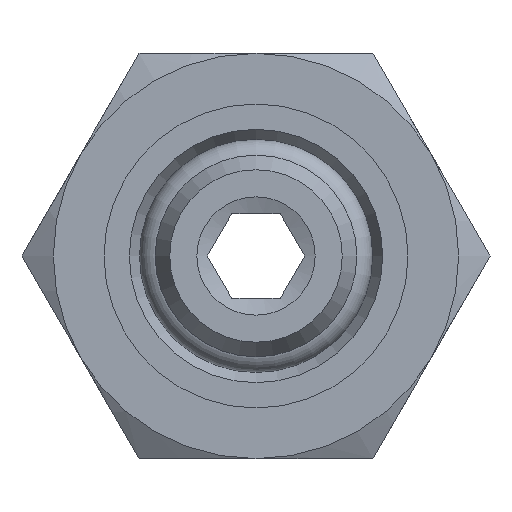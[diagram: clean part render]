
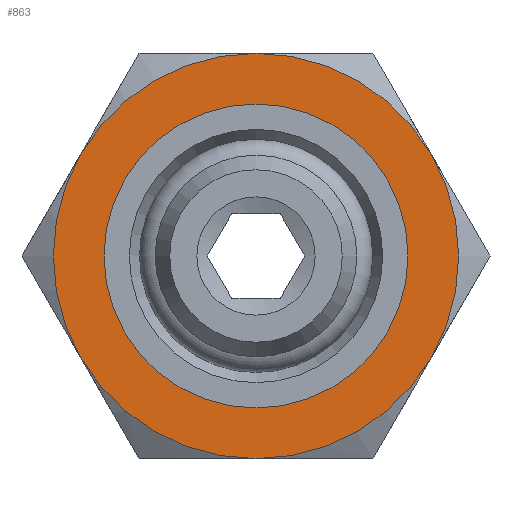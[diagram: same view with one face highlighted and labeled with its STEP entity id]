
A CAD part, front view. The second image highlights one B-rep face of the part: STEP entity #863.
In plain terms, the highlighted planar face has unit normal (0, -1, 0).
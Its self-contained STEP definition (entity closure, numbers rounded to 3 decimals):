
#48=FACE_BOUND('',#261,.T.);
#69=PLANE('',#985);
#206=FACE_OUTER_BOUND('',#260,.T.);
#260=EDGE_LOOP('',(#748,#749,#750,#751,#752,#753));
#261=EDGE_LOOP('',(#754,#755));
#308=CIRCLE('',#933,6.);
#309=CIRCLE('',#935,6.);
#310=CIRCLE('',#937,6.);
#311=CIRCLE('',#939,6.);
#312=CIRCLE('',#941,6.);
#313=CIRCLE('',#943,6.);
#330=CIRCLE('',#986,4.5);
#331=CIRCLE('',#987,4.5);
#371=VERTEX_POINT('',#1351);
#372=VERTEX_POINT('',#1355);
#374=VERTEX_POINT('',#1362);
#376=VERTEX_POINT('',#1372);
#378=VERTEX_POINT('',#1385);
#380=VERTEX_POINT('',#1395);
#416=VERTEX_POINT('',#1562);
#417=VERTEX_POINT('',#1563);
#466=EDGE_CURVE('',#371,#372,#308,.T.);
#469=EDGE_CURVE('',#374,#371,#309,.T.);
#472=EDGE_CURVE('',#376,#374,#310,.T.);
#474=EDGE_CURVE('',#378,#376,#311,.T.);
#477=EDGE_CURVE('',#380,#378,#312,.T.);
#480=EDGE_CURVE('',#372,#380,#313,.T.);
#539=EDGE_CURVE('',#416,#417,#330,.T.);
#540=EDGE_CURVE('',#417,#416,#331,.T.);
#748=ORIENTED_EDGE('',*,*,#480,.T.);
#749=ORIENTED_EDGE('',*,*,#477,.T.);
#750=ORIENTED_EDGE('',*,*,#474,.T.);
#751=ORIENTED_EDGE('',*,*,#472,.T.);
#752=ORIENTED_EDGE('',*,*,#469,.T.);
#753=ORIENTED_EDGE('',*,*,#466,.T.);
#754=ORIENTED_EDGE('',*,*,#539,.F.);
#755=ORIENTED_EDGE('',*,*,#540,.F.);
#863=ADVANCED_FACE('',(#206,#48),#69,.T.);
#933=AXIS2_PLACEMENT_3D('',#1359,#1093,#1094);
#935=AXIS2_PLACEMENT_3D('',#1369,#1097,#1098);
#937=AXIS2_PLACEMENT_3D('',#1379,#1101,#1102);
#939=AXIS2_PLACEMENT_3D('',#1386,#1105,#1106);
#941=AXIS2_PLACEMENT_3D('',#1396,#1109,#1110);
#943=AXIS2_PLACEMENT_3D('',#1405,#1113,#1114);
#985=AXIS2_PLACEMENT_3D('',#1561,#1220,#1221);
#986=AXIS2_PLACEMENT_3D('',#1564,#1222,#1223);
#987=AXIS2_PLACEMENT_3D('',#1565,#1224,#1225);
#1093=DIRECTION('center_axis',(0.,-1.,0.));
#1094=DIRECTION('ref_axis',(-1.,0.,0.));
#1097=DIRECTION('center_axis',(0.,-1.,0.));
#1098=DIRECTION('ref_axis',(-1.,0.,0.));
#1101=DIRECTION('center_axis',(0.,-1.,0.));
#1102=DIRECTION('ref_axis',(-1.,0.,0.));
#1105=DIRECTION('center_axis',(0.,-1.,0.));
#1106=DIRECTION('ref_axis',(-1.,0.,0.));
#1109=DIRECTION('center_axis',(0.,-1.,0.));
#1110=DIRECTION('ref_axis',(-1.,0.,0.));
#1113=DIRECTION('center_axis',(0.,-1.,0.));
#1114=DIRECTION('ref_axis',(-1.,0.,0.));
#1220=DIRECTION('center_axis',(0.,-1.,0.));
#1221=DIRECTION('ref_axis',(0.,0.,-1.));
#1222=DIRECTION('center_axis',(0.,-1.,0.));
#1223=DIRECTION('ref_axis',(1.,0.,0.));
#1224=DIRECTION('center_axis',(0.,-1.,0.));
#1225=DIRECTION('ref_axis',(1.,0.,0.));
#1351=CARTESIAN_POINT('',(5.196,5.5,-3.));
#1355=CARTESIAN_POINT('',(5.196,5.5,3.));
#1359=CARTESIAN_POINT('Origin',(0.,5.5,0.));
#1362=CARTESIAN_POINT('',(0.,5.5,-6.));
#1369=CARTESIAN_POINT('Origin',(0.,5.5,0.));
#1372=CARTESIAN_POINT('',(-5.196,5.5,-3.));
#1379=CARTESIAN_POINT('Origin',(0.,5.5,0.));
#1385=CARTESIAN_POINT('',(-5.196,5.5,3.));
#1386=CARTESIAN_POINT('Origin',(0.,5.5,0.));
#1395=CARTESIAN_POINT('',(0.,5.5,6.));
#1396=CARTESIAN_POINT('Origin',(0.,5.5,0.));
#1405=CARTESIAN_POINT('Origin',(0.,5.5,0.));
#1561=CARTESIAN_POINT('Origin',(4.5,5.5,0.));
#1562=CARTESIAN_POINT('',(4.5,5.5,0.));
#1563=CARTESIAN_POINT('',(-4.5,5.5,0.));
#1564=CARTESIAN_POINT('Origin',(0.,5.5,0.));
#1565=CARTESIAN_POINT('Origin',(0.,5.5,0.));
